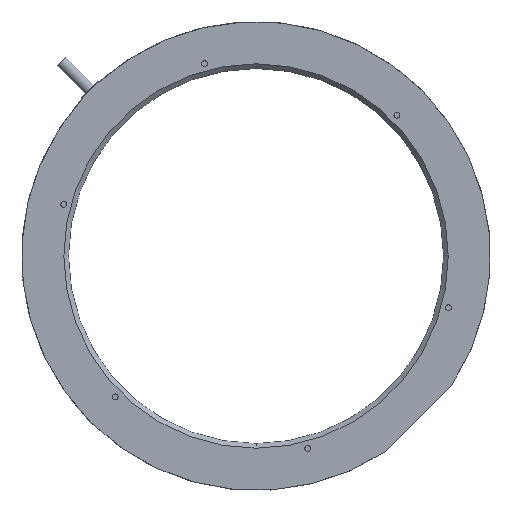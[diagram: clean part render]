
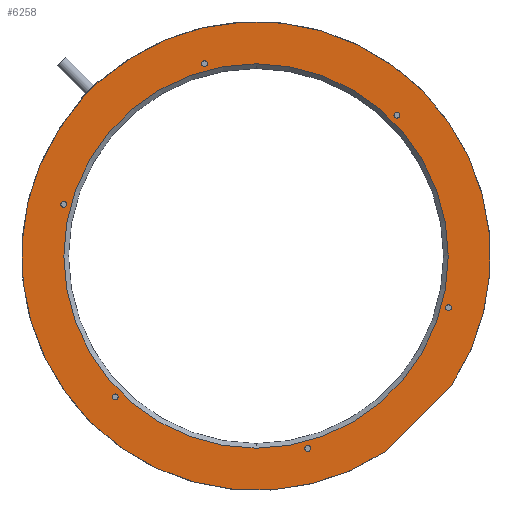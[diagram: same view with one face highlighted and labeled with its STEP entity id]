
A CAD part, top view. The second image highlights one B-rep face of the part: STEP entity #6258.
In plain terms, the highlighted planar face has unit normal (0, 0, 1).
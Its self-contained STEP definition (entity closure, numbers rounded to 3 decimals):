
#2028=CARTESIAN_POINT('',(-60.104,-60.104,2.));
#2029=DIRECTION('',(0.,0.,-1.));
#2030=DIRECTION('',(0.,-1.,0.));
#2031=AXIS2_PLACEMENT_3D('',#2028,#2029,#2030);
#2033=CARTESIAN_POINT('',(-60.104,-60.104,2.));
#2034=DIRECTION('',(0.,0.,-1.));
#2035=DIRECTION('',(0.,1.,0.));
#2036=AXIS2_PLACEMENT_3D('',#2033,#2034,#2035);
#2038=CARTESIAN_POINT('',(-82.104,22.,2.));
#2039=DIRECTION('',(0.,0.,-1.));
#2040=DIRECTION('',(0.,-1.,0.));
#2041=AXIS2_PLACEMENT_3D('',#2038,#2039,#2040);
#2043=CARTESIAN_POINT('',(-82.104,22.,2.));
#2044=DIRECTION('',(0.,0.,-1.));
#2045=DIRECTION('',(0.,1.,0.));
#2046=AXIS2_PLACEMENT_3D('',#2043,#2044,#2045);
#2048=CARTESIAN_POINT('',(-22.,82.104,2.));
#2049=DIRECTION('',(0.,0.,-1.));
#2050=DIRECTION('',(0.,-1.,0.));
#2051=AXIS2_PLACEMENT_3D('',#2048,#2049,#2050);
#2053=CARTESIAN_POINT('',(-22.,82.104,2.));
#2054=DIRECTION('',(0.,0.,-1.));
#2055=DIRECTION('',(0.,1.,0.));
#2056=AXIS2_PLACEMENT_3D('',#2053,#2054,#2055);
#2058=CARTESIAN_POINT('',(60.104,60.104,2.));
#2059=DIRECTION('',(0.,0.,-1.));
#2060=DIRECTION('',(0.,-1.,0.));
#2061=AXIS2_PLACEMENT_3D('',#2058,#2059,#2060);
#2063=CARTESIAN_POINT('',(60.104,60.104,2.));
#2064=DIRECTION('',(0.,0.,-1.));
#2065=DIRECTION('',(0.,1.,0.));
#2066=AXIS2_PLACEMENT_3D('',#2063,#2064,#2065);
#2068=CARTESIAN_POINT('',(82.104,-22.,2.));
#2069=DIRECTION('',(0.,0.,-1.));
#2070=DIRECTION('',(0.,-1.,0.));
#2071=AXIS2_PLACEMENT_3D('',#2068,#2069,#2070);
#2073=CARTESIAN_POINT('',(82.104,-22.,2.));
#2074=DIRECTION('',(0.,0.,-1.));
#2075=DIRECTION('',(0.,1.,0.));
#2076=AXIS2_PLACEMENT_3D('',#2073,#2074,#2075);
#2078=CARTESIAN_POINT('',(22.,-82.104,2.));
#2079=DIRECTION('',(0.,0.,-1.));
#2080=DIRECTION('',(0.,-1.,0.));
#2081=AXIS2_PLACEMENT_3D('',#2078,#2079,#2080);
#2083=CARTESIAN_POINT('',(22.,-82.104,2.));
#2084=DIRECTION('',(0.,0.,-1.));
#2085=DIRECTION('',(0.,1.,0.));
#2086=AXIS2_PLACEMENT_3D('',#2083,#2084,#2085);
#2088=CARTESIAN_POINT('',(0.,0.,2.));
#2089=DIRECTION('',(0.,0.,1.));
#2090=DIRECTION('',(-0.74,0.672,0.));
#2091=AXIS2_PLACEMENT_3D('',#2088,#2089,#2090);
#2093=CARTESIAN_POINT('',(0.,0.,2.));
#2094=DIRECTION('',(0.,0.,1.));
#2095=DIRECTION('',(0.834,-0.551,0.));
#2096=AXIS2_PLACEMENT_3D('',#2093,#2094,#2095);
#2098=DIRECTION('',(0.707,0.707,0.));
#2099=VECTOR('',#2098,40.);
#2100=CARTESIAN_POINT('',(55.14,-83.424,2.));
#2101=LINE('',#2100,#2099);
#2102=CARTESIAN_POINT('',(0.,0.,2.));
#2103=DIRECTION('',(0.,0.,-1.));
#2104=DIRECTION('',(0.,1.,0.));
#2105=AXIS2_PLACEMENT_3D('',#2102,#2103,#2104);
#2107=CARTESIAN_POINT('',(0.,0.,2.));
#2108=DIRECTION('',(0.,0.,-1.));
#2109=DIRECTION('',(0.,-1.,0.));
#2110=AXIS2_PLACEMENT_3D('',#2107,#2108,#2109);
#2330=CARTESIAN_POINT('',(-67.235,74.023,2.));
#2332=DIRECTION('',(0.707,-0.707,0.));
#2333=VECTOR('',#2332,0.315);
#2334=CARTESIAN_POINT('',(-67.458,74.246,2.));
#2335=LINE('',#2334,#2333);
#2355=DIRECTION('',(0.707,0.707,0.));
#2356=VECTOR('',#2355,9.6);
#2357=CARTESIAN_POINT('',(-74.246,67.458,2.));
#2358=LINE('',#2357,#2356);
#2378=CARTESIAN_POINT('',(-74.023,67.235,2.));
#2399=DIRECTION('',(-0.707,0.707,0.));
#2400=VECTOR('',#2399,0.315);
#2401=CARTESIAN_POINT('',(-74.023,67.235,2.));
#2402=LINE('',#2401,#2400);
#2992=CARTESIAN_POINT('',(-67.458,74.246,2.));
#2993=VERTEX_POINT('',#2992);
#2994=CARTESIAN_POINT('',(-74.246,67.458,2.));
#2995=VERTEX_POINT('',#2994);
#3066=CARTESIAN_POINT('',(55.14,-83.424,2.));
#3067=CARTESIAN_POINT('',(83.424,-55.14,2.));
#3068=VERTEX_POINT('',#3066);
#3069=VERTEX_POINT('',#3067);
#3075=VERTEX_POINT('',#2330);
#3076=VERTEX_POINT('',#2378);
#3078=CARTESIAN_POINT('',(22.,-83.354,2.));
#3079=CARTESIAN_POINT('',(22.,-80.854,2.));
#3080=VERTEX_POINT('',#3078);
#3081=VERTEX_POINT('',#3079);
#3082=CARTESIAN_POINT('',(82.104,-23.25,2.));
#3083=CARTESIAN_POINT('',(82.104,-20.75,2.));
#3084=VERTEX_POINT('',#3082);
#3085=VERTEX_POINT('',#3083);
#3086=CARTESIAN_POINT('',(60.104,58.854,2.));
#3087=CARTESIAN_POINT('',(60.104,61.354,2.));
#3088=VERTEX_POINT('',#3086);
#3089=VERTEX_POINT('',#3087);
#3090=CARTESIAN_POINT('',(-22.,80.854,2.));
#3091=CARTESIAN_POINT('',(-22.,83.354,2.));
#3092=VERTEX_POINT('',#3090);
#3093=VERTEX_POINT('',#3091);
#3094=CARTESIAN_POINT('',(-82.104,20.75,2.));
#3095=CARTESIAN_POINT('',(-82.104,23.25,2.));
#3096=VERTEX_POINT('',#3094);
#3097=VERTEX_POINT('',#3095);
#3098=CARTESIAN_POINT('',(-60.104,-61.354,2.));
#3099=CARTESIAN_POINT('',(-60.104,-58.854,2.));
#3100=VERTEX_POINT('',#3098);
#3101=VERTEX_POINT('',#3099);
#3106=CARTESIAN_POINT('',(0.,82.,2.));
#3107=CARTESIAN_POINT('',(0.,-82.,2.));
#3108=VERTEX_POINT('',#3106);
#3109=VERTEX_POINT('',#3107);
#6198=CARTESIAN_POINT('',(0.,0.,2.));
#6199=DIRECTION('',(0.,0.,1.));
#6200=DIRECTION('',(1.,0.,0.));
#6201=AXIS2_PLACEMENT_3D('',#6198,#6199,#6200);
#6202=PLANE('',#6201);
#6204=ORIENTED_EDGE('',*,*,#6203,.F.);
#6206=ORIENTED_EDGE('',*,*,#6205,.T.);
#6208=ORIENTED_EDGE('',*,*,#6207,.T.);
#6210=ORIENTED_EDGE('',*,*,#6209,.T.);
#6212=ORIENTED_EDGE('',*,*,#6211,.F.);
#6214=ORIENTED_EDGE('',*,*,#6213,.F.);
#6215=EDGE_LOOP('',(#6204,#6206,#6208,#6210,#6212,#6214));
#6216=FACE_OUTER_BOUND('',#6215,.F.);
#6218=ORIENTED_EDGE('',*,*,#6217,.F.);
#6220=ORIENTED_EDGE('',*,*,#6219,.F.);
#6221=EDGE_LOOP('',(#6218,#6220));
#6222=FACE_BOUND('',#6221,.F.);
#6224=ORIENTED_EDGE('',*,*,#6223,.F.);
#6226=ORIENTED_EDGE('',*,*,#6225,.F.);
#6227=EDGE_LOOP('',(#6224,#6226));
#6228=FACE_BOUND('',#6227,.F.);
#6230=ORIENTED_EDGE('',*,*,#6229,.F.);
#6232=ORIENTED_EDGE('',*,*,#6231,.F.);
#6233=EDGE_LOOP('',(#6230,#6232));
#6234=FACE_BOUND('',#6233,.F.);
#6236=ORIENTED_EDGE('',*,*,#6235,.F.);
#6238=ORIENTED_EDGE('',*,*,#6237,.F.);
#6239=EDGE_LOOP('',(#6236,#6238));
#6240=FACE_BOUND('',#6239,.F.);
#6242=ORIENTED_EDGE('',*,*,#6241,.F.);
#6244=ORIENTED_EDGE('',*,*,#6243,.F.);
#6245=EDGE_LOOP('',(#6242,#6244));
#6246=FACE_BOUND('',#6245,.F.);
#6248=ORIENTED_EDGE('',*,*,#6247,.F.);
#6250=ORIENTED_EDGE('',*,*,#6249,.F.);
#6251=EDGE_LOOP('',(#6248,#6250));
#6252=FACE_BOUND('',#6251,.F.);
#6254=ORIENTED_EDGE('',*,*,#6253,.F.);
#6255=ORIENTED_EDGE('',*,*,#6188,.F.);
#6256=EDGE_LOOP('',(#6254,#6255));
#6257=FACE_BOUND('',#6256,.F.);
#6258=ADVANCED_FACE('',(#6216,#6222,#6228,#6234,#6240,#6246,#6252,#6257),#6202,
.T.);
#2032=CIRCLE('',#2031,1.25);
#2037=CIRCLE('',#2036,1.25);
#2042=CIRCLE('',#2041,1.25);
#2047=CIRCLE('',#2046,1.25);
#2052=CIRCLE('',#2051,1.25);
#2057=CIRCLE('',#2056,1.25);
#2062=CIRCLE('',#2061,1.25);
#2067=CIRCLE('',#2066,1.25);
#2072=CIRCLE('',#2071,1.25);
#2077=CIRCLE('',#2076,1.25);
#2082=CIRCLE('',#2081,1.25);
#2087=CIRCLE('',#2086,1.25);
#2092=CIRCLE('',#2091,100.);
#2097=CIRCLE('',#2096,100.);
#2106=CIRCLE('',#2105,82.);
#2111=CIRCLE('',#2110,82.);
#6188=EDGE_CURVE('',#3109,#3108,#2111,.T.);
#6203=EDGE_CURVE('',#3076,#3068,#2092,.T.);
#6205=EDGE_CURVE('',#3076,#2995,#2402,.T.);
#6207=EDGE_CURVE('',#2995,#2993,#2358,.T.);
#6209=EDGE_CURVE('',#2993,#3075,#2335,.T.);
#6211=EDGE_CURVE('',#3069,#3075,#2097,.T.);
#6213=EDGE_CURVE('',#3068,#3069,#2101,.T.);
#6217=EDGE_CURVE('',#3096,#3097,#2042,.T.);
#6219=EDGE_CURVE('',#3097,#3096,#2047,.T.);
#6223=EDGE_CURVE('',#3092,#3093,#2052,.T.);
#6225=EDGE_CURVE('',#3093,#3092,#2057,.T.);
#6229=EDGE_CURVE('',#3088,#3089,#2062,.T.);
#6231=EDGE_CURVE('',#3089,#3088,#2067,.T.);
#6235=EDGE_CURVE('',#3084,#3085,#2072,.T.);
#6237=EDGE_CURVE('',#3085,#3084,#2077,.T.);
#6241=EDGE_CURVE('',#3080,#3081,#2082,.T.);
#6243=EDGE_CURVE('',#3081,#3080,#2087,.T.);
#6247=EDGE_CURVE('',#3100,#3101,#2032,.T.);
#6249=EDGE_CURVE('',#3101,#3100,#2037,.T.);
#6253=EDGE_CURVE('',#3108,#3109,#2106,.T.);
